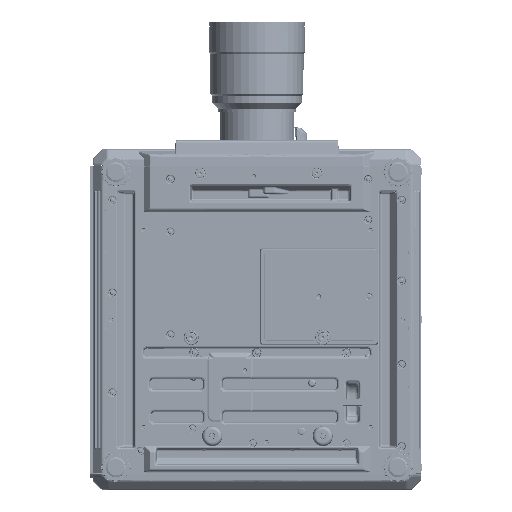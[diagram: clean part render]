
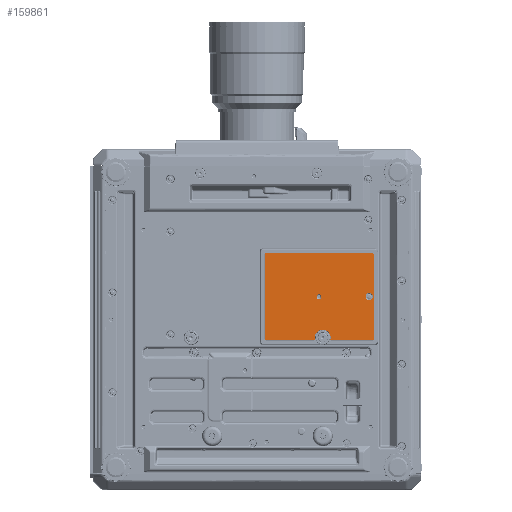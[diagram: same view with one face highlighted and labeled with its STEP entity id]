
A CAD part, front view. The second image highlights one B-rep face of the part: STEP entity #159861.
In plain terms, the highlighted planar face has unit normal (0, -1, 0).
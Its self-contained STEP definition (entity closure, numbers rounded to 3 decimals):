
#84446=ELLIPSE('',#345447,1.504,1.5);
#84447=ELLIPSE('',#345448,1.504,1.5);
#84448=ELLIPSE('',#345450,1.504,1.5);
#84449=ELLIPSE('',#345451,1.504,1.5);
#90218=PLANE('',#345452);
#114084=LINE('',#494125,#140179);
#114085=LINE('',#494130,#140180);
#114086=LINE('',#494134,#140181);
#114087=LINE('',#494178,#140182);
#114088=LINE('',#494182,#140183);
#140179=VECTOR('',#393214,1.);
#140180=VECTOR('',#393217,1.);
#140181=VECTOR('',#393220,1.);
#140182=VECTOR('',#393223,1.);
#140183=VECTOR('',#393226,1.);
#159861=ADVANCED_FACE('',(#171248,#171249,#171250),#90218,.F.);
#168080=B_SPLINE_CURVE_WITH_KNOTS('',3,(#494136,#494137,#494138,#494139,
#494140,#494141,#494142,#494143,#494144,#494145,#494146,#494147,#494148,
#494149,#494150,#494151,#494152,#494153,#494154),.UNSPECIFIED.,.F.,.F.,
(4,3,3,3,3,3,4),(0.,0.054,0.243,0.432,
0.621,0.811,1.),.UNSPECIFIED.);
#168081=B_SPLINE_CURVE_WITH_KNOTS('',3,(#494158,#494159,#494160,#494161,
#494162,#494163,#494164,#494165,#494166,#494167,#494168,#494169,#494170,
#494171,#494172,#494173,#494174,#494175,#494176),.UNSPECIFIED.,.F.,.F.,
(4,3,3,3,3,3,4),(0.,0.054,0.243,0.432,
0.621,0.811,1.),.UNSPECIFIED.);
#171248=FACE_BOUND('',#177727,.T.);
#171249=FACE_BOUND('',#177728,.T.);
#171250=FACE_BOUND('',#177729,.T.);
#177727=EDGE_LOOP('',(#209751));
#177728=EDGE_LOOP('',(#209752));
#177729=EDGE_LOOP('',(#209753,#209754,#209755,#209756,#209757,#209758,#209759,
#209760,#209761,#209762,#209763,#209764));
#209751=ORIENTED_EDGE('',*,*,#299014,.T.);
#209752=ORIENTED_EDGE('',*,*,#299015,.T.);
#209753=ORIENTED_EDGE('',*,*,#299016,.T.);
#209754=ORIENTED_EDGE('',*,*,#299017,.T.);
#209755=ORIENTED_EDGE('',*,*,#299018,.T.);
#209756=ORIENTED_EDGE('',*,*,#299019,.T.);
#209757=ORIENTED_EDGE('',*,*,#299020,.T.);
#209758=ORIENTED_EDGE('',*,*,#299021,.T.);
#209759=ORIENTED_EDGE('',*,*,#299022,.T.);
#209760=ORIENTED_EDGE('',*,*,#299023,.T.);
#209761=ORIENTED_EDGE('',*,*,#299024,.T.);
#209762=ORIENTED_EDGE('',*,*,#299025,.T.);
#209763=ORIENTED_EDGE('',*,*,#299026,.T.);
#209764=ORIENTED_EDGE('',*,*,#299027,.T.);
#257681=VERTEX_POINT('',#494121);
#257682=VERTEX_POINT('',#494124);
#257683=VERTEX_POINT('',#494126);
#257684=VERTEX_POINT('',#494127);
#257685=VERTEX_POINT('',#494129);
#257686=VERTEX_POINT('',#494131);
#257687=VERTEX_POINT('',#494133);
#257688=VERTEX_POINT('',#494135);
#257689=VERTEX_POINT('',#494155);
#257690=VERTEX_POINT('',#494157);
#257691=VERTEX_POINT('',#494177);
#257692=VERTEX_POINT('',#494179);
#257693=VERTEX_POINT('',#494181);
#257694=VERTEX_POINT('',#494183);
#299014=EDGE_CURVE('',#257681,#257681,#329422,.T.);
#299015=EDGE_CURVE('',#257682,#257682,#329423,.T.);
#299016=EDGE_CURVE('',#257683,#257684,#114084,.T.);
#299017=EDGE_CURVE('',#257684,#257685,#84446,.T.);
#299018=EDGE_CURVE('',#257685,#257686,#114085,.T.);
#299019=EDGE_CURVE('',#257686,#257687,#84447,.T.);
#299020=EDGE_CURVE('',#257687,#257688,#114086,.T.);
#299021=EDGE_CURVE('',#257688,#257689,#168080,.T.);
#299022=EDGE_CURVE('',#257689,#257690,#329424,.T.);
#299023=EDGE_CURVE('',#257690,#257691,#168081,.T.);
#299024=EDGE_CURVE('',#257691,#257692,#114087,.T.);
#299025=EDGE_CURVE('',#257692,#257693,#84448,.T.);
#299026=EDGE_CURVE('',#257693,#257694,#114088,.T.);
#299027=EDGE_CURVE('',#257694,#257683,#84449,.T.);
#329422=CIRCLE('',#345444,4.);
#329423=CIRCLE('',#345446,6.125);
#329424=CIRCLE('',#345449,13.358);
#345444=AXIS2_PLACEMENT_3D('',#494120,#393208,#393209);
#345446=AXIS2_PLACEMENT_3D('',#494123,#393212,#393213);
#345447=AXIS2_PLACEMENT_3D('',#494128,#393215,#393216);
#345448=AXIS2_PLACEMENT_3D('',#494132,#393218,#393219);
#345449=AXIS2_PLACEMENT_3D('',#494156,#393221,#393222);
#345450=AXIS2_PLACEMENT_3D('',#494180,#393224,#393225);
#345451=AXIS2_PLACEMENT_3D('',#494184,#393227,#393228);
#345452=AXIS2_PLACEMENT_3D('',#494185,#393229,#393230);
#393208=DIRECTION('',(0.,1.,0.));
#393209=DIRECTION('',(0.,0.,1.));
#393212=DIRECTION('',(0.,1.,0.));
#393213=DIRECTION('',(0.,0.,1.));
#393214=DIRECTION('',(-1.,0.,0.));
#393215=DIRECTION('',(0.,-1.,0.));
#393216=DIRECTION('',(0.707,0.,-0.707));
#393217=DIRECTION('',(0.,0.,-1.));
#393218=DIRECTION('',(0.,-1.,0.));
#393219=DIRECTION('',(-0.707,0.,-0.707));
#393220=DIRECTION('',(1.,0.,0.));
#393221=DIRECTION('',(0.,1.,0.));
#393222=DIRECTION('',(0.,0.,1.));
#393223=DIRECTION('',(1.,0.,0.));
#393224=DIRECTION('',(0.,-1.,0.));
#393225=DIRECTION('',(-0.707,0.,0.707));
#393226=DIRECTION('',(0.,0.,1.));
#393227=DIRECTION('',(0.,-1.,0.));
#393228=DIRECTION('',(-0.707,0.,-0.707));
#393229=DIRECTION('',(0.,1.,0.));
#393230=DIRECTION('',(0.,0.,1.));
#494120=CARTESIAN_POINT('',(103.8,-116.5,-1.5));
#494121=CARTESIAN_POINT('',(103.8,-116.5,2.5));
#494123=CARTESIAN_POINT('',(187.8,-116.5,-1.5));
#494124=CARTESIAN_POINT('',(187.8,-116.5,4.625));
#494125=CARTESIAN_POINT('',(110.,-116.5,71.642));
#494126=CARTESIAN_POINT('',(193.644,-116.5,71.642));
#494127=CARTESIAN_POINT('',(14.356,-116.5,71.642));
#494128=CARTESIAN_POINT('',(14.36,-116.5,70.14));
#494129=CARTESIAN_POINT('',(12.858,-116.5,70.144));
#494130=CARTESIAN_POINT('',(12.858,-116.5,-70.));
#494131=CARTESIAN_POINT('',(12.858,-116.5,-73.144));
#494132=CARTESIAN_POINT('',(14.36,-116.5,-73.14));
#494133=CARTESIAN_POINT('',(14.356,-116.5,-74.642));
#494134=CARTESIAN_POINT('',(110.,-116.5,-74.642));
#494135=CARTESIAN_POINT('',(95.481,-116.5,-74.642));
#494136=CARTESIAN_POINT('',(95.481,-116.5,-74.642));
#494137=CARTESIAN_POINT('',(95.529,-116.5,-74.642));
#494138=CARTESIAN_POINT('',(95.578,-116.5,-74.64));
#494139=CARTESIAN_POINT('',(95.627,-116.5,-74.635));
#494140=CARTESIAN_POINT('',(95.794,-116.5,-74.619));
#494141=CARTESIAN_POINT('',(95.96,-116.5,-74.574));
#494142=CARTESIAN_POINT('',(96.112,-116.5,-74.503));
#494143=CARTESIAN_POINT('',(96.264,-116.5,-74.433));
#494144=CARTESIAN_POINT('',(96.405,-116.5,-74.335));
#494145=CARTESIAN_POINT('',(96.525,-116.5,-74.219));
#494146=CARTESIAN_POINT('',(96.645,-116.5,-74.102));
#494147=CARTESIAN_POINT('',(96.747,-116.5,-73.963));
#494148=CARTESIAN_POINT('',(96.822,-116.5,-73.813));
#494149=CARTESIAN_POINT('',(96.897,-116.5,-73.662));
#494150=CARTESIAN_POINT('',(96.947,-116.5,-73.497));
#494151=CARTESIAN_POINT('',(96.967,-116.5,-73.33));
#494152=CARTESIAN_POINT('',(96.988,-116.5,-73.164));
#494153=CARTESIAN_POINT('',(96.98,-116.5,-72.991));
#494154=CARTESIAN_POINT('',(96.945,-116.5,-72.827));
#494155=CARTESIAN_POINT('',(96.945,-116.5,-72.827));
#494156=CARTESIAN_POINT('',(110.,-116.5,-70.));
#494157=CARTESIAN_POINT('',(123.055,-116.5,-72.827));
#494158=CARTESIAN_POINT('',(123.055,-116.5,-72.827));
#494159=CARTESIAN_POINT('',(123.045,-116.5,-72.875));
#494160=CARTESIAN_POINT('',(123.037,-116.5,-72.923));
#494161=CARTESIAN_POINT('',(123.031,-116.5,-72.972));
#494162=CARTESIAN_POINT('',(123.012,-116.5,-73.138));
#494163=CARTESIAN_POINT('',(123.021,-116.5,-73.31));
#494164=CARTESIAN_POINT('',(123.058,-116.5,-73.473));
#494165=CARTESIAN_POINT('',(123.094,-116.5,-73.637));
#494166=CARTESIAN_POINT('',(123.159,-116.5,-73.796));
#494167=CARTESIAN_POINT('',(123.248,-116.5,-73.938));
#494168=CARTESIAN_POINT('',(123.337,-116.5,-74.08));
#494169=CARTESIAN_POINT('',(123.451,-116.5,-74.209));
#494170=CARTESIAN_POINT('',(123.582,-116.5,-74.313));
#494171=CARTESIAN_POINT('',(123.713,-116.5,-74.418));
#494172=CARTESIAN_POINT('',(123.864,-116.5,-74.502));
#494173=CARTESIAN_POINT('',(124.023,-116.5,-74.558));
#494174=CARTESIAN_POINT('',(124.181,-116.5,-74.613));
#494175=CARTESIAN_POINT('',(124.351,-116.5,-74.642));
#494176=CARTESIAN_POINT('',(124.519,-116.5,-74.642));
#494177=CARTESIAN_POINT('',(124.519,-116.5,-74.642));
#494178=CARTESIAN_POINT('',(110.,-116.5,-74.642));
#494179=CARTESIAN_POINT('',(193.644,-116.5,-74.642));
#494180=CARTESIAN_POINT('',(193.64,-116.5,-73.14));
#494181=CARTESIAN_POINT('',(195.142,-116.5,-73.144));
#494182=CARTESIAN_POINT('',(195.142,-116.5,-70.));
#494183=CARTESIAN_POINT('',(195.142,-116.5,70.144));
#494184=CARTESIAN_POINT('',(193.64,-116.5,70.14));
#494185=CARTESIAN_POINT('',(110.,-116.5,-70.));
